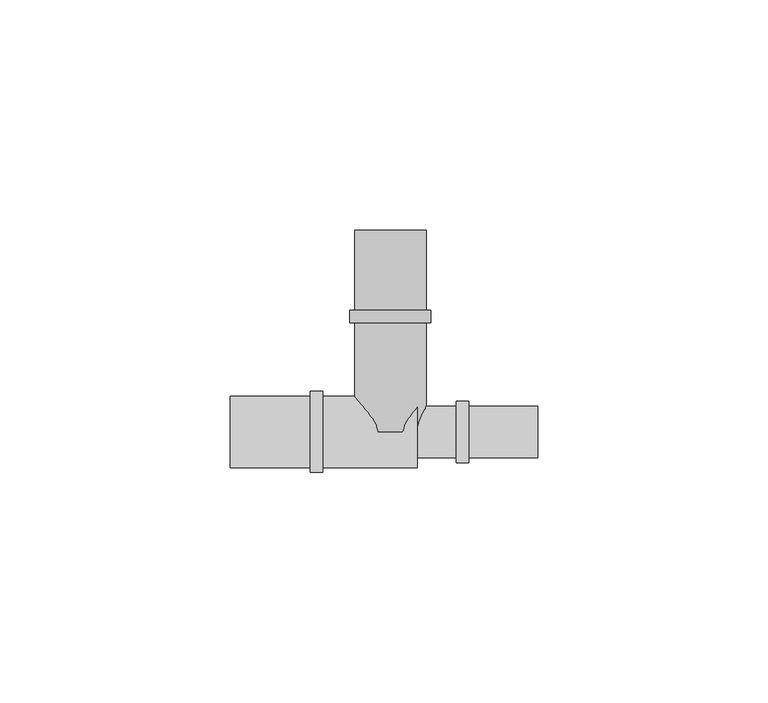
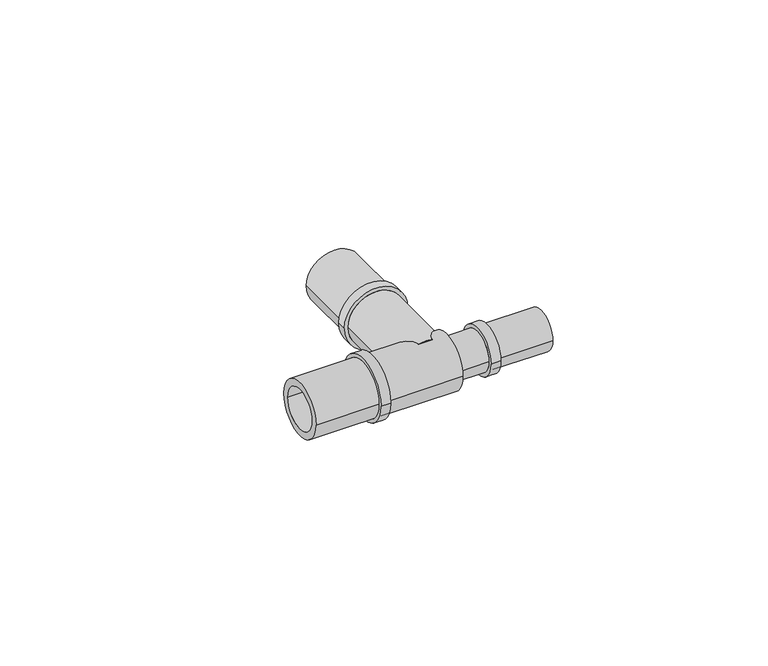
"""IFC4 building model written with IfcOpenShell, lengths in millimetres: pipe fitting geometry, FASTLOC_T-piece_LX : FSL T-Piece LX PL."""

from ifc_helpers import new_model, si_unit, frame, origin, place, context, project, spatial, polyline, circle_curve, source, transform, mapped, element, save
from ifc_brep_helpers import plane_surface, cylinder_surface, revolved_surface, advanced_brep


def pipe_fitting_73daba78(model_context):
    return source(origin(), model_context, "Body", "AdvancedBrep", [
        advanced_brep(
        [(5.75, 43.8, 0.0), (-5.75, 43.8, 0.0), (-5.75, 0.0, 0.0), (5.75, 0.0, 0.0), (7.75, 0.0, 0.0), (-7.75, 0.0, 0.0), (-7.75, 23.73, 0.0), (7.75, 23.73, 0.0), (8.8, 23.73, 0.0), (-8.8, 23.73, 0.0), (-8.8, 26.4, 0.0), (8.8, 26.4, 0.0), (7.75, 26.4, 0.0), (-7.75, 26.4, 0.0), (-7.75, 43.8, 0.0), (7.75, 43.8, 0.0)],
        [
            (0, 1, circle_curve(frame((0.0, 43.8, 0.0), z_axis=(0.0, 1.0, 0.0), x_axis=(-1.0, 0.0, 0.0)), 5.75)),
            (1, 2),
            (2, 3, circle_curve(frame((0.0, 0.0, 0.0), z_axis=(0.0, -1.0, 0.0), x_axis=(-1.0, 0.0, 0.0)), 5.75)),
            (3, 0),
            (4, 5, circle_curve(frame((0.0, 0.0, 0.0), z_axis=(0.0, 1.0, 0.0), x_axis=(-1.0, 0.0, 0.0)), 7.75)),
            (5, 6),
            (6, 7, circle_curve(frame((0.0, 23.73, 0.0), z_axis=(0.0, -1.0, 0.0), x_axis=(-1.0, 0.0, 0.0)), 7.75)),
            (7, 4),
            (8, 9, circle_curve(frame((0.0, 23.73, 0.0), z_axis=(0.0, 1.0, 0.0), x_axis=(-1.0, 0.0, 0.0)), 8.8)),
            (9, 10),
            (10, 11, circle_curve(frame((0.0, 26.4, 0.0), z_axis=(0.0, -1.0, 0.0), x_axis=(-1.0, 0.0, 0.0)), 8.8)),
            (11, 8),
            (12, 13, circle_curve(frame((0.0, 26.4, 0.0), z_axis=(0.0, 1.0, 0.0), x_axis=(-1.0, 0.0, 0.0)), 7.75)),
            (13, 14),
            (14, 15, circle_curve(frame((0.0, 43.8, 0.0), z_axis=(0.0, -1.0, 0.0), x_axis=(-1.0, 0.0, 0.0)), 7.75)),
            (15, 12),
            (1, 0, circle_curve(frame((0.0, 43.8, 0.0), z_axis=(0.0, 1.0, 0.0), x_axis=(1.0, 0.0, 0.0)), 5.75)),
            (3, 2, circle_curve(frame((0.0, 0.0, 0.0), z_axis=(0.0, -1.0, 0.0), x_axis=(1.0, 0.0, 0.0)), 5.75)),
            (4, 5, circle_curve(frame((0.0, 0.0, 0.0), z_axis=(0.0, -1.0, 0.0), x_axis=(1.0, 0.0, 0.0)), 7.75)),
            (7, 6, circle_curve(frame((0.0, 23.73, 0.0), z_axis=(0.0, -1.0, 0.0), x_axis=(1.0, 0.0, 0.0)), 7.75)),
            (8, 9, circle_curve(frame((0.0, 23.73, 0.0), z_axis=(0.0, -1.0, 0.0), x_axis=(1.0, 0.0, 0.0)), 8.8)),
            (11, 10, circle_curve(frame((0.0, 26.4, 0.0), z_axis=(0.0, -1.0, 0.0), x_axis=(1.0, 0.0, 0.0)), 8.8)),
            (12, 13, circle_curve(frame((0.0, 26.4, 0.0), z_axis=(0.0, -1.0, 0.0), x_axis=(1.0, 0.0, 0.0)), 7.75)),
            (15, 14, circle_curve(frame((0.0, 43.8, 0.0), z_axis=(0.0, -1.0, 0.0), x_axis=(1.0, 0.0, 0.0)), 7.75)),
        ],
        [
            revolved_surface(polyline([(-5.75, 0.0, 0.0), (-5.75, 43.8, 0.0)]), (0.0, 0.0, 0.0), (0.0, -1.0, 0.0)),
            cylinder_surface(frame((0.0, 0.0, 0.0), z_axis=(0.0, -1.0, 0.0), x_axis=(-1.0, 0.0, 0.0)), 7.75),
            cylinder_surface(frame((0.0, 0.0, 0.0), z_axis=(0.0, -1.0, 0.0), x_axis=(-1.0, 0.0, 0.0)), 8.8),
            revolved_surface(polyline([(5.75, 0.0, 0.0), (5.75, 43.8, 0.0)]), (0.0, 0.0, 0.0), (0.0, -1.0, 0.0)),
            plane_surface(frame((0.0, 0.0, 0.0), z_axis=(0.0, -1.0, 0.0), x_axis=(1.0, 0.0, 0.0))),
            cylinder_surface(frame((0.0, 0.0, 0.0), z_axis=(0.0, -1.0, 0.0), x_axis=(1.0, 0.0, 0.0)), 7.75),
            plane_surface(frame((0.0, 23.73, 0.0), z_axis=(0.0, -1.0, 0.0), x_axis=(1.0, 0.0, 0.0))),
            cylinder_surface(frame((0.0, 0.0, 0.0), z_axis=(0.0, -1.0, 0.0), x_axis=(1.0, 0.0, 0.0)), 8.8),
            plane_surface(frame((0.0, 26.4, 0.0), z_axis=(0.0, 1.0, 0.0), x_axis=(1.0, 0.0, 0.0))),
            plane_surface(frame((0.0, 43.8, 0.0), z_axis=(0.0, 1.0, 0.0), x_axis=(1.0, 0.0, 0.0))),
        ],
        [
            (0, [[1, 2, 3, 4]]),
            (1, [[5, 6, 7, 8]]),
            (2, [[9, 10, 11, 12]]),
            (1, [[13, 14, 15, 16]]),
            (3, [[17, -4, 18, -2]]),
            (4, [[19, -5], [-18, -3]]),
            (5, [[-19, -8, 20, -6]]),
            (6, [[21, -9], [-20, -7]]),
            (7, [[-21, -12, 22, -10]]),
            (8, [[-22, -11], [23, -13]]),
            (5, [[-23, -16, 24, -14]]),
            (9, [[-24, -15], [-17, -1]]),
        ],
    ),
        advanced_brep(
        [(14.29, 5.6, 0.0), (14.29, -5.6, 0.0), (5.85, -5.6, 0.0), (5.85, 5.6, 0.0), (17.0, 6.7, 0.0), (17.0, -6.7, 0.0), (14.29, -6.7, 0.0), (14.29, 6.7, 0.0), (32.0, 5.6, 0.0), (32.0, -5.6, 0.0), (17.0, -5.6, 0.0), (17.0, 5.6, 0.0), (4.0, 3.75, 0.0), (4.0, -3.75, 0.0), (32.0, -3.75, 0.0), (32.0, 3.75, 0.0), (-34.8, 5.75, 0.0), (-34.8, -5.75, 0.0), (4.0, -5.75, 0.0), (4.0, 5.75, 0.0), (-17.4, 7.75, 0.0), (-17.4, -7.75, 0.0), (-34.8, -7.75, 0.0), (-34.8, 7.75, 0.0), (-14.73, 8.8, 0.0), (-14.73, -8.8, 0.0), (-17.4, -8.8, 0.0), (-17.4, 8.8, 0.0), (5.85, 7.75, 0.0), (5.85, -7.75, 0.0), (-14.73, -7.75, 0.0), (-14.73, 7.75, 0.0)],
        [
            (0, 1, circle_curve(frame((14.29, 0.0, 0.0), z_axis=(-1.0, 0.0, 0.0), x_axis=(0.0, -1.0, 0.0)), 5.6)),
            (1, 2),
            (2, 3, circle_curve(frame((5.85, 0.0, 0.0), z_axis=(1.0, 0.0, 0.0), x_axis=(0.0, -1.0, 0.0)), 5.6)),
            (3, 0),
            (4, 5, circle_curve(frame((17.0, 0.0, 0.0), z_axis=(-1.0, 0.0, 0.0), x_axis=(0.0, -1.0, 0.0)), 6.7)),
            (5, 6),
            (6, 7, circle_curve(frame((14.29, 0.0, 0.0), z_axis=(1.0, 0.0, 0.0), x_axis=(0.0, -1.0, 0.0)), 6.7)),
            (7, 4),
            (8, 9, circle_curve(frame((32.0, 0.0, 0.0), z_axis=(-1.0, 0.0, 0.0), x_axis=(0.0, -1.0, 0.0)), 5.6)),
            (9, 10),
            (10, 11, circle_curve(frame((17.0, 0.0, 0.0), z_axis=(1.0, 0.0, 0.0), x_axis=(0.0, -1.0, 0.0)), 5.6)),
            (11, 8),
            (12, 13, circle_curve(frame((4.0, 0.0, 0.0), z_axis=(-1.0, 0.0, 0.0), x_axis=(0.0, -1.0, 0.0)), 3.75)),
            (13, 14),
            (14, 15, circle_curve(frame((32.0, 0.0, 0.0), z_axis=(1.0, 0.0, 0.0), x_axis=(0.0, -1.0, 0.0)), 3.75)),
            (15, 12),
            (16, 17, circle_curve(frame((-34.8, 0.0, 0.0), z_axis=(-1.0, 0.0, 0.0), x_axis=(0.0, -1.0, 0.0)), 5.75)),
            (17, 18),
            (18, 19, circle_curve(frame((4.0, 0.0, 0.0), z_axis=(1.0, 0.0, 0.0), x_axis=(0.0, -1.0, 0.0)), 5.75)),
            (19, 16),
            (20, 21, circle_curve(frame((-17.4, 0.0, 0.0), z_axis=(-1.0, 0.0, 0.0), x_axis=(0.0, -1.0, 0.0)), 7.75)),
            (21, 22),
            (22, 23, circle_curve(frame((-34.8, 0.0, 0.0), z_axis=(1.0, 0.0, 0.0), x_axis=(0.0, -1.0, 0.0)), 7.75)),
            (23, 20),
            (24, 25, circle_curve(frame((-14.73, 0.0, 0.0), z_axis=(-1.0, 0.0, 0.0), x_axis=(0.0, -1.0, 0.0)), 8.8)),
            (25, 26),
            (26, 27, circle_curve(frame((-17.4, 0.0, 0.0), z_axis=(1.0, 0.0, 0.0), x_axis=(0.0, -1.0, 0.0)), 8.8)),
            (27, 24),
            (28, 29, circle_curve(frame((5.85, 0.0, 0.0), z_axis=(-1.0, 0.0, 0.0), x_axis=(0.0, -1.0, 0.0)), 7.75)),
            (29, 30),
            (30, 31, circle_curve(frame((-14.73, 0.0, 0.0), z_axis=(1.0, 0.0, 0.0), x_axis=(0.0, -1.0, 0.0)), 7.75)),
            (31, 28),
            (28, 29, circle_curve(frame((5.85, 0.0, 0.0), z_axis=(1.0, 0.0, 0.0), x_axis=(0.0, 1.0, 0.0)), 7.75)),
            (2, 3, circle_curve(frame((5.85, 0.0, 0.0), z_axis=(-1.0, 0.0, 0.0), x_axis=(0.0, 1.0, 0.0)), 5.6)),
            (1, 0, circle_curve(frame((14.29, 0.0, 0.0), z_axis=(-1.0, 0.0, 0.0), x_axis=(0.0, 1.0, 0.0)), 5.6)),
            (6, 7, circle_curve(frame((14.29, 0.0, 0.0), z_axis=(-1.0, 0.0, 0.0), x_axis=(0.0, 1.0, 0.0)), 6.7)),
            (5, 4, circle_curve(frame((17.0, 0.0, 0.0), z_axis=(-1.0, 0.0, 0.0), x_axis=(0.0, 1.0, 0.0)), 6.7)),
            (10, 11, circle_curve(frame((17.0, 0.0, 0.0), z_axis=(-1.0, 0.0, 0.0), x_axis=(0.0, 1.0, 0.0)), 5.6)),
            (9, 8, circle_curve(frame((32.0, 0.0, 0.0), z_axis=(-1.0, 0.0, 0.0), x_axis=(0.0, 1.0, 0.0)), 5.6)),
            (14, 15, circle_curve(frame((32.0, 0.0, 0.0), z_axis=(-1.0, 0.0, 0.0), x_axis=(0.0, 1.0, 0.0)), 3.75)),
            (13, 12, circle_curve(frame((4.0, 0.0, 0.0), z_axis=(-1.0, 0.0, 0.0), x_axis=(0.0, 1.0, 0.0)), 3.75)),
            (18, 19, circle_curve(frame((4.0, 0.0, 0.0), z_axis=(-1.0, 0.0, 0.0), x_axis=(0.0, 1.0, 0.0)), 5.75)),
            (17, 16, circle_curve(frame((-34.8, 0.0, 0.0), z_axis=(-1.0, 0.0, 0.0), x_axis=(0.0, 1.0, 0.0)), 5.75)),
            (22, 23, circle_curve(frame((-34.8, 0.0, 0.0), z_axis=(-1.0, 0.0, 0.0), x_axis=(0.0, 1.0, 0.0)), 7.75)),
            (21, 20, circle_curve(frame((-17.4, 0.0, 0.0), z_axis=(-1.0, 0.0, 0.0), x_axis=(0.0, 1.0, 0.0)), 7.75)),
            (26, 27, circle_curve(frame((-17.4, 0.0, 0.0), z_axis=(-1.0, 0.0, 0.0), x_axis=(0.0, 1.0, 0.0)), 8.8)),
            (25, 24, circle_curve(frame((-14.73, 0.0, 0.0), z_axis=(-1.0, 0.0, 0.0), x_axis=(0.0, 1.0, 0.0)), 8.8)),
            (30, 31, circle_curve(frame((-14.73, 0.0, 0.0), z_axis=(-1.0, 0.0, 0.0), x_axis=(0.0, 1.0, 0.0)), 7.75)),
        ],
        [
            cylinder_surface(frame((0.0, 0.0, 0.0), z_axis=(1.0, 0.0, 0.0), x_axis=(0.0, -1.0, 0.0)), 5.6),
            cylinder_surface(frame((0.0, 0.0, 0.0), z_axis=(1.0, 0.0, 0.0), x_axis=(0.0, -1.0, 0.0)), 6.7),
            revolved_surface(polyline([(32.0, -3.75, 0.0), (4.0, -3.75, 0.0)]), (0.0, 0.0, 0.0), (1.0, 0.0, 0.0)),
            revolved_surface(polyline([(4.0, -5.75, 0.0), (-34.8, -5.75, 0.0)]), (0.0, 0.0, 0.0), (1.0, 0.0, 0.0)),
            cylinder_surface(frame((0.0, 0.0, 0.0), z_axis=(1.0, 0.0, 0.0), x_axis=(0.0, -1.0, 0.0)), 7.75),
            cylinder_surface(frame((0.0, 0.0, 0.0), z_axis=(1.0, 0.0, 0.0), x_axis=(0.0, -1.0, 0.0)), 8.8),
            plane_surface(frame((5.85, 0.0, 0.0), z_axis=(1.0, 0.0, 0.0), x_axis=(0.0, 1.0, 0.0))),
            cylinder_surface(frame((0.0, 0.0, 0.0), z_axis=(1.0, 0.0, 0.0), x_axis=(0.0, 1.0, 0.0)), 5.6),
            plane_surface(frame((14.29, 0.0, 0.0), z_axis=(-1.0, 0.0, 0.0), x_axis=(0.0, 1.0, 0.0))),
            cylinder_surface(frame((0.0, 0.0, 0.0), z_axis=(1.0, 0.0, 0.0), x_axis=(0.0, 1.0, 0.0)), 6.7),
            plane_surface(frame((17.0, 0.0, 0.0), z_axis=(1.0, 0.0, 0.0), x_axis=(0.0, 1.0, 0.0))),
            plane_surface(frame((32.0, 0.0, 0.0), z_axis=(1.0, 0.0, 0.0), x_axis=(0.0, 1.0, 0.0))),
            revolved_surface(polyline([(32.0, 3.75, 0.0), (4.0, 3.75, 0.0)]), (0.0, 0.0, 0.0), (1.0, 0.0, 0.0)),
            plane_surface(frame((4.0, 0.0, 0.0), z_axis=(-1.0, 0.0, 0.0), x_axis=(0.0, 1.0, 0.0))),
            revolved_surface(polyline([(4.0, 5.75, 0.0), (-34.8, 5.75, 0.0)]), (0.0, 0.0, 0.0), (1.0, 0.0, 0.0)),
            plane_surface(frame((-34.8, 0.0, 0.0), z_axis=(-1.0, 0.0, 0.0), x_axis=(0.0, 1.0, 0.0))),
            cylinder_surface(frame((0.0, 0.0, 0.0), z_axis=(1.0, 0.0, 0.0), x_axis=(0.0, 1.0, 0.0)), 7.75),
            plane_surface(frame((-17.4, 0.0, 0.0), z_axis=(-1.0, 0.0, 0.0), x_axis=(0.0, 1.0, 0.0))),
            cylinder_surface(frame((0.0, 0.0, 0.0), z_axis=(1.0, 0.0, 0.0), x_axis=(0.0, 1.0, 0.0)), 8.8),
            plane_surface(frame((-14.73, 0.0, 0.0), z_axis=(1.0, 0.0, 0.0), x_axis=(0.0, 1.0, 0.0))),
        ],
        [
            (0, [[1, 2, 3, 4]]),
            (1, [[5, 6, 7, 8]]),
            (0, [[9, 10, 11, 12]]),
            (2, [[13, 14, 15, 16]]),
            (3, [[17, 18, 19, 20]]),
            (4, [[21, 22, 23, 24]]),
            (5, [[25, 26, 27, 28]]),
            (4, [[29, 30, 31, 32]]),
            (6, [[33, -29], [34, -3]]),
            (7, [[35, -4, -34, -2]]),
            (8, [[36, -7], [-35, -1]]),
            (9, [[37, -8, -36, -6]]),
            (10, [[-37, -5], [38, -11]]),
            (7, [[39, -12, -38, -10]]),
            (11, [[-39, -9], [40, -15]]),
            (12, [[41, -16, -40, -14]]),
            (13, [[42, -19], [-41, -13]]),
            (14, [[43, -20, -42, -18]]),
            (15, [[44, -23], [-43, -17]]),
            (16, [[45, -24, -44, -22]]),
            (17, [[46, -27], [-45, -21]]),
            (18, [[47, -28, -46, -26]]),
            (19, [[-47, -25], [48, -31]]),
            (16, [[-33, -32, -48, -30]]),
        ],
    ),
    ])


if __name__ == "__main__":
    model = new_model("IFC4")
    model_context = context("Model", 3, world=origin())
    ifc_project = project(units=[si_unit("LENGTHUNIT", "METRE", prefix="MILLI")], contexts=[model_context])
    site = spatial("IfcSite", under=ifc_project)
    building = spatial("IfcBuilding", under=site)
    placement = place(None, origin())
    pipe_fitting_shape = pipe_fitting_73daba78(model_context)
    element("IfcPipeFitting", 1, ObjectType="FASTLOC_T-piece_LX : FSL T-Piece LX PL", at=placement, inside=building, context=model_context, shape_type="MappedRepresentation", body=[
        mapped(pipe_fitting_shape, transform((0.0, 0.0, 0.0), x_axis=(1.0, 0.0, 0.0), y_axis=(0.0, 1.0, 0.0), z_axis=(0.0, 0.0, 1.0))),
    ])
    save(model, "model.ifc")
